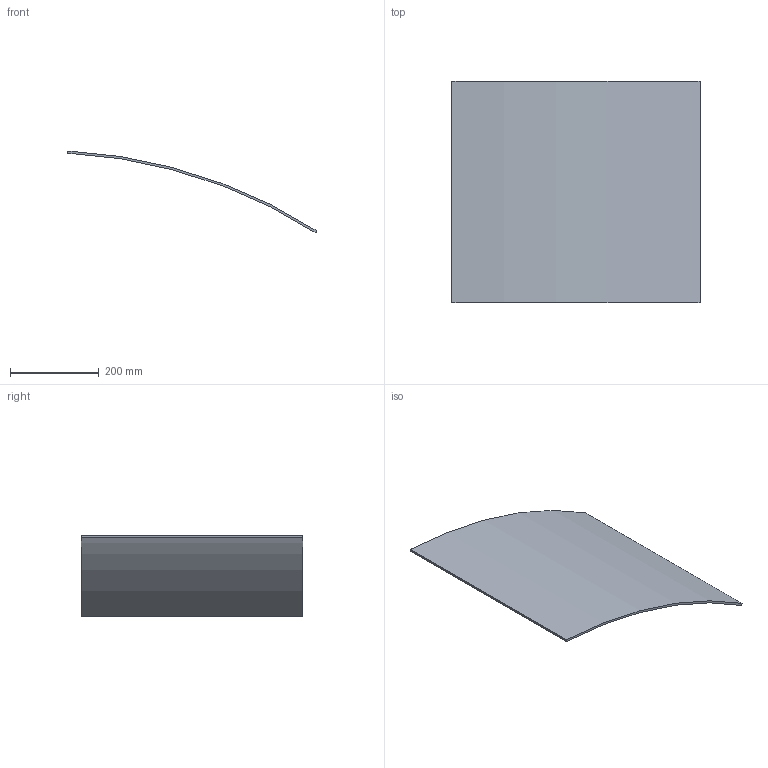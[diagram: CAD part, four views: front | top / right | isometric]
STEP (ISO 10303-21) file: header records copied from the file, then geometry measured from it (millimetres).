
FILE_DESCRIPTION( ( 'Unknown' ), '1' );
FILE_NAME( 'C:/Users/work/Documents/Solid Edge/heavy_gas_cherenkov/step/sphere_mirror_negx_posy.step', 'Unknown', ( 'Unknown' ), ( 'Unknown' ), 'PSStep 10.1', 'Unknown', ' ' );
FILE_SCHEMA( ( 'AUTOMOTIVE_DESIGN { 1 0 10303 214 1 1 1 1 }' ) );
Length unit declared in the file: millimetre
Products named in the file (1): 1
Bounding box: 560 x 500 x 185.02 mm (x, y, z)
Volume: 1486631.8 mm3; surface area: 606069.3 mm2
Topology: 1 solids, 1 shells, 6 faces, 12 edges, 8 vertices
Faces by surface type: plane 4, cylinder 2
Entity records: 224 total; most frequent: DIRECTION 30, CARTESIAN_POINT 27, ORIENTED_EDGE 24, EDGE_CURVE 12, AXIS2_PLACEMENT_3D 11, VERTEX_POINT 8, LINE 8, VECTOR 8
